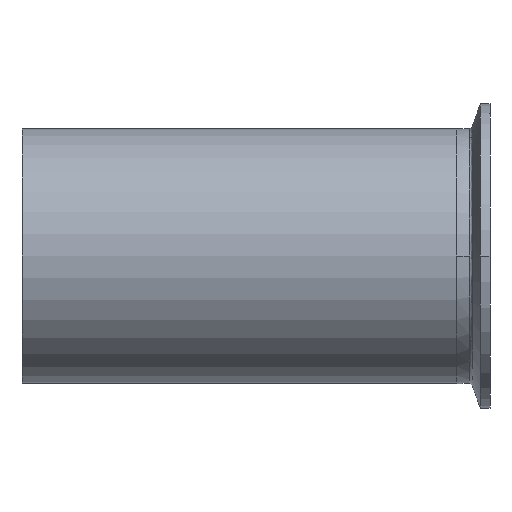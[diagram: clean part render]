
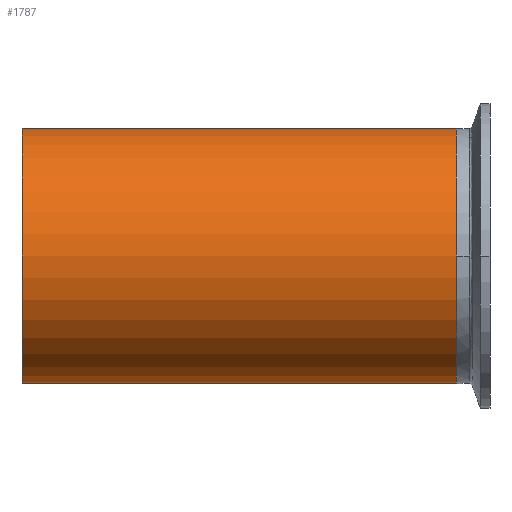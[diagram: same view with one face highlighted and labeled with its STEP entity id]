
A CAD part, front view. The second image highlights one B-rep face of the part: STEP entity #1787.
In plain terms, the highlighted cylindrical face has radius 38.1 mm (diameter 76.2 mm), a partial arc.
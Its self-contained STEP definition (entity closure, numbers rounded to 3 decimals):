
#49 = DIRECTION ( 'NONE',  ( 0., 0., 1. ) ) ;
#85 = AXIS2_PLACEMENT_3D ( 'NONE', #1086, #1075, #49 ) ;
#114 = EDGE_CURVE ( 'NONE', #2058, #1780, #1920, .T. ) ;
#244 = CARTESIAN_POINT ( 'NONE',  ( 151.763, 0., 38.1 ) ) ;
#249 = VECTOR ( 'NONE', #1743, 1000. ) ;
#278 = CARTESIAN_POINT ( 'NONE',  ( 0., 0., -38.1 ) ) ;
#604 = VERTEX_POINT ( 'NONE', #2932 ) ;
#643 = CARTESIAN_POINT ( 'NONE',  ( 151.763, 0., 0. ) ) ;
#661 = LINE ( 'NONE', #244, #1837 ) ;
#677 = EDGE_LOOP ( 'NONE', ( #2349, #1741, #1738, #1548, #1335, #1256 ) ) ;
#808 = CARTESIAN_POINT ( 'NONE',  ( 0., 0., 38.1 ) ) ;
#841 = VECTOR ( 'NONE', #1257, 1000. ) ;
#843 = EDGE_CURVE ( 'NONE', #868, #2058, #844, .T. ) ;
#844 = LINE ( 'NONE', #2947, #249 ) ;
#868 = VERTEX_POINT ( 'NONE', #808 ) ;
#924 = DIRECTION ( 'NONE',  ( -1., 0., 0. ) ) ;
#1024 = CIRCLE ( 'NONE', #85, 38.1 ) ;
#1074 = CARTESIAN_POINT ( 'NONE',  ( -85.7, 0., 0. ) ) ;
#1075 = DIRECTION ( 'NONE',  ( -1., 0., 0. ) ) ;
#1086 = CARTESIAN_POINT ( 'NONE',  ( 44., 0., 0. ) ) ;
#1097 = EDGE_CURVE ( 'NONE', #2229, #1780, #2594, .T. ) ;
#1245 = CARTESIAN_POINT ( 'NONE',  ( 151.763, 0., -38.1 ) ) ;
#1256 = ORIENTED_EDGE ( 'NONE', *, *, #1097, .F. ) ;
#1257 = DIRECTION ( 'NONE',  ( -1., 0., 0. ) ) ;
#1307 = CARTESIAN_POINT ( 'NONE',  ( -85.7, 0., 38.1 ) ) ;
#1313 = DIRECTION ( 'NONE',  ( 0., 0., 1. ) ) ;
#1335 = ORIENTED_EDGE ( 'NONE', *, *, #114, .T. ) ;
#1473 = LINE ( 'NONE', #1245, #841 ) ;
#1516 = EDGE_CURVE ( 'NONE', #2246, #604, #1024, .T. ) ;
#1548 = ORIENTED_EDGE ( 'NONE', *, *, #843, .T. ) ;
#1556 = DIRECTION ( 'NONE',  ( 0., 0., 1. ) ) ;
#1565 = CARTESIAN_POINT ( 'NONE',  ( -85.7, 0., -38.1 ) ) ;
#1590 = DIRECTION ( 'NONE',  ( -1., 0., 0. ) ) ;
#1738 = ORIENTED_EDGE ( 'NONE', *, *, #2591, .T. ) ;
#1741 = ORIENTED_EDGE ( 'NONE', *, *, #1516, .T. ) ;
#1743 = DIRECTION ( 'NONE',  ( -1., 0., 0. ) ) ;
#1768 = FACE_OUTER_BOUND ( 'NONE', #677, .T. ) ;
#1780 = VERTEX_POINT ( 'NONE', #1565 ) ;
#1787 = ADVANCED_FACE ( 'NONE', ( #1768 ), #2337, .T. ) ;
#1794 = CARTESIAN_POINT ( 'NONE',  ( 44., 0., -38.1 ) ) ;
#1837 = VECTOR ( 'NONE', #924, 1000. ) ;
#1920 = CIRCLE ( 'NONE', #2222, 38.1 ) ;
#1927 = EDGE_CURVE ( 'NONE', #2246, #2229, #1473, .T. ) ;
#1972 = VECTOR ( 'NONE', #2193, 1000. ) ;
#2015 = CARTESIAN_POINT ( 'NONE',  ( 151.763, 0., -38.1 ) ) ;
#2058 = VERTEX_POINT ( 'NONE', #1307 ) ;
#2193 = DIRECTION ( 'NONE',  ( -1., 0., 0. ) ) ;
#2222 = AXIS2_PLACEMENT_3D ( 'NONE', #1074, #2739, #1313 ) ;
#2229 = VERTEX_POINT ( 'NONE', #278 ) ;
#2238 = AXIS2_PLACEMENT_3D ( 'NONE', #643, #1590, #1556 ) ;
#2246 = VERTEX_POINT ( 'NONE', #1794 ) ;
#2337 = CYLINDRICAL_SURFACE ( 'NONE', #2238, 38.1 ) ;
#2349 = ORIENTED_EDGE ( 'NONE', *, *, #1927, .F. ) ;
#2591 = EDGE_CURVE ( 'NONE', #604, #868, #661, .T. ) ;
#2594 = LINE ( 'NONE', #2015, #1972 ) ;
#2739 = DIRECTION ( 'NONE',  ( 1., 0., 0. ) ) ;
#2932 = CARTESIAN_POINT ( 'NONE',  ( 44., 0., 38.1 ) ) ;
#2947 = CARTESIAN_POINT ( 'NONE',  ( 151.763, 0., 38.1 ) ) ;
